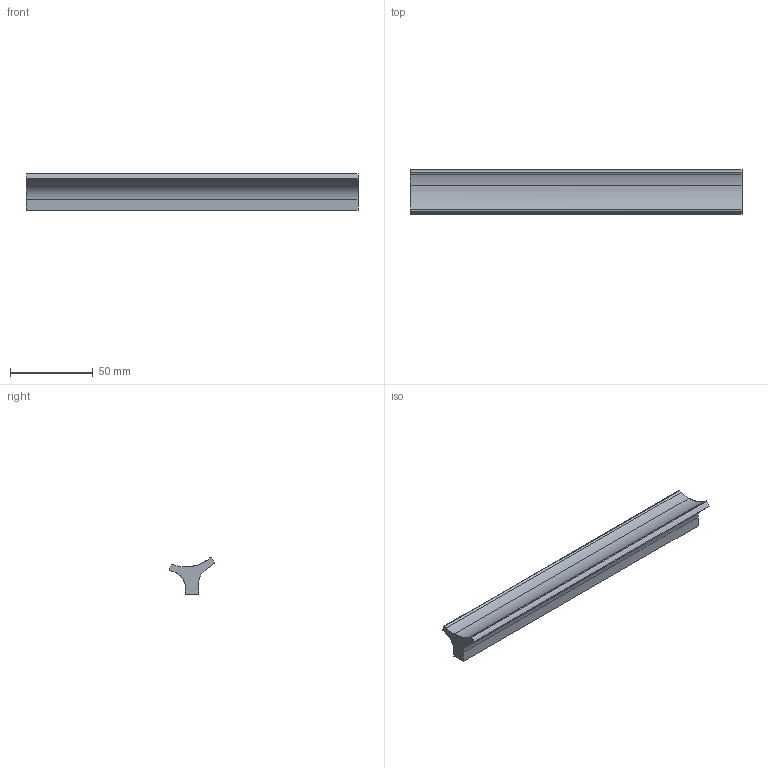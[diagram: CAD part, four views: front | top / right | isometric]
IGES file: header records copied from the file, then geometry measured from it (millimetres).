
Start section: C
Global section: file name:  8250.igs; native system: By Siemens PLM Incorporated; preprocessor: XPlus GENERIC/IGES 16.0.42; author: Author; organization: Title; date: 20231114.093234; units: millimetre
Bounding box: 200 x 26.99 x 22 mm (x, y, z)
Surface area: 17288.7 mm2 (no closed solid volume)
Topology: 0 solids, 0 shells, 23 faces, 122 edges, 122 vertices
Faces by surface type: bspline 23
